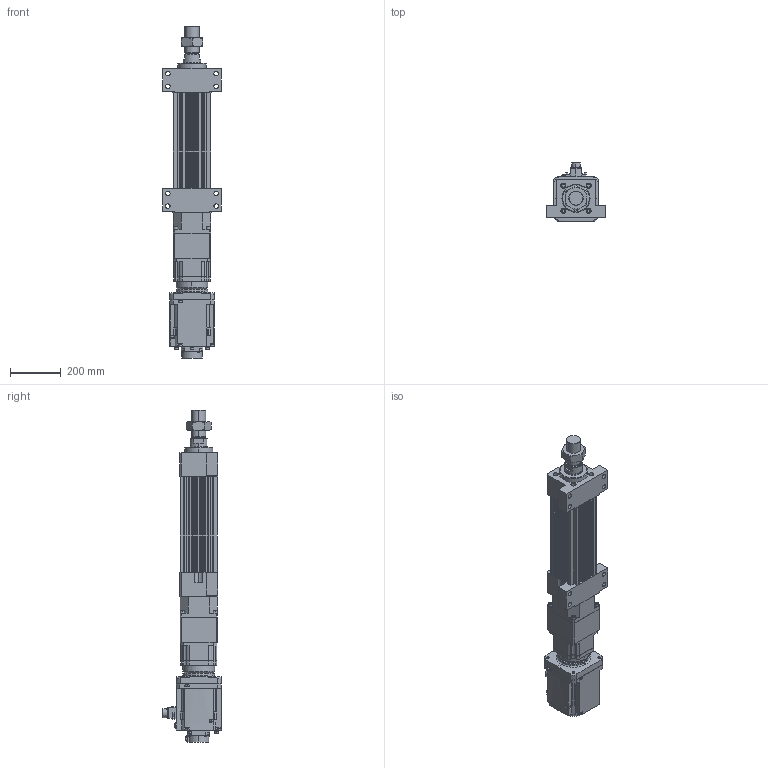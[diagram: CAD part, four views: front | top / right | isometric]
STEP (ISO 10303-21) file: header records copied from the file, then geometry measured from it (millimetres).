
FILE_DESCRIPTION (( 'STEP AP203' ), '1' );
FILE_NAME ('HES150NS(HS)-S100-W050G00-M-FFB.STEP', '2026-06-10T06:39:41', ( 'tms' ), ( '' ), 'SwSTEP 2.0', 'SolidWorks 2013', '' );
FILE_SCHEMA (( 'CONFIG_CONTROL_DESIGN' ));
Length unit declared in the file: millimetre
Products named in the file (9): HG-SR502B; AB1422; HES150-M-ROD-100; AB1421; M56X2.0P; HES150-FFB-100; HES150NS(HS)-S100-W050G00-M-FFB; HES150-S-G142; AB1423
Assembly tree (8 placements, depth 2):
  HES150NS(HS)-S100-W050G00-M-FFB
    HES150-FFB-100
    HES150-M-ROD-100
    M56X2.0P
    HES150-S-G142
    AB1421
    AB1422
    AB1423
    HG-SR502B
Bounding box: 230 x 228.85 x 1303 mm (x, y, z)
Volume: 15770035.9 mm3; surface area: 1545569.7 mm2
Topology: 5 solids, 19 shells, 1554 faces, 4050 edges, 2642 vertices
Faces by surface type: cylinder 710, plane 622, cone 140, bspline 76, torus 6
Entity records: 56814 total; most frequent: CARTESIAN_POINT 17056, DIRECTION 8322, ORIENTED_EDGE 8026, EDGE_CURVE 4035, AXIS2_PLACEMENT_3D 3133, VERTEX_POINT 2642, LINE 2056, VECTOR 2056
